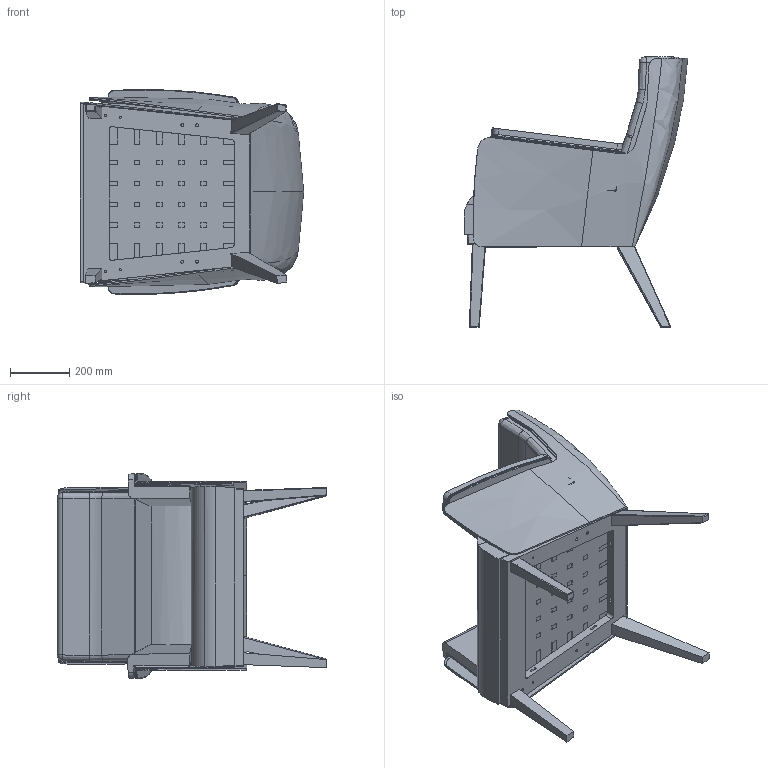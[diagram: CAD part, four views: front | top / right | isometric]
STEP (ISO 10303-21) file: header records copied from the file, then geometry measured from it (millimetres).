
FILE_DESCRIPTION(('CATIA V5 STEP Exchange','CAx-IF Rec.Pracs.--- Model Styling and Organization---1.4--- 2014-01-23'),'2;1');
FILE_NAME('C:\Users\Kutsm\Desktop\WING_1_low\WING_LOW.stp','2021-01-14T11:00:07+00:00',('none'),('none'),'CATIA Version 5-6 Release 2018 SP3 HF7','CATIA V5 STEP AP214','none');
FILE_SCHEMA(('AUTOMOTIVE_DESIGN { 1 0 10303 214 1 1 1 1 }'));
Length unit declared in the file: millimetre
Products named in the file (1): WING_LOW
Bounding box: 753.12 x 909.88 x 690.59 mm (x, y, z)
Volume: 96444120.7 mm3; surface area: 7102254.2 mm2
Topology: 19 solids, 19 shells, 679 faces, 2152 edges, 1501 vertices
Faces by surface type: plane 307, cylinder 212, bspline 80, cone 48, sphere 16, torus 16
Entity records: 28083 total; most frequent: CARTESIAN_POINT 11269, ORIENTED_EDGE 4248, DIRECTION 2199, EDGE_CURVE 2124, VERTEX_POINT 1497, VECTOR 995, LINE 995, AXIS2_PLACEMENT_3D 820
